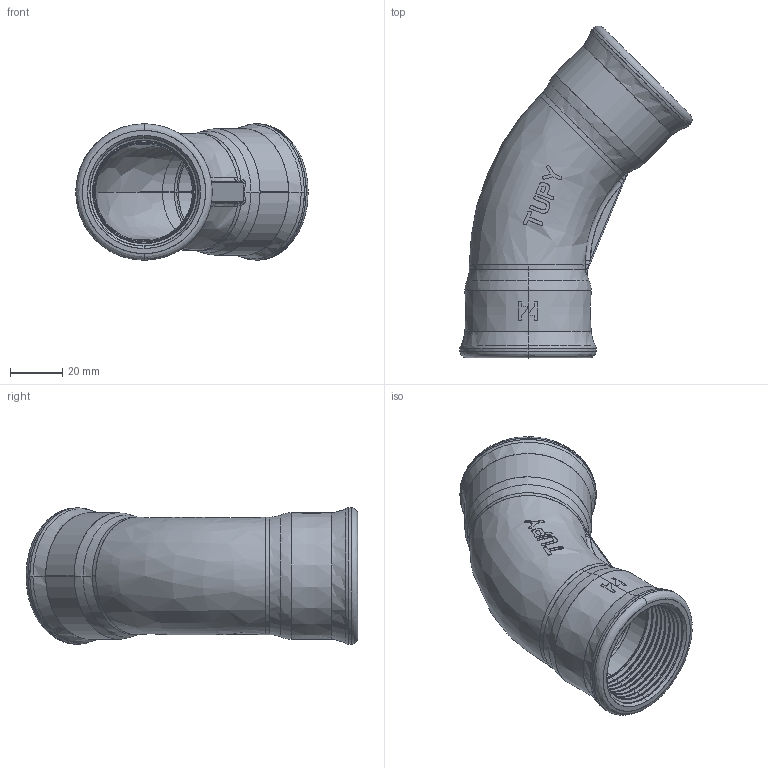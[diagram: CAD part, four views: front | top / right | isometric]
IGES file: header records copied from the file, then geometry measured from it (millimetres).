
Start section: SolidWorks IGES file using analytic representation for surfaces
Global section: file name: C:\Users\Joel Rosa\Desktop\Tubulação\12-26-OK\12-26-008.IGS; native system: SolidWorks 2011; preprocessor: SolidWorks 2011; author: Joel Rosa; date: 130205.213216; units: millimetre
Bounding box: 88.59 x 126.59 x 52 mm (x, y, z)
Surface area: 38310.5 mm2 (no closed solid volume)
Topology: 0 solids, 0 shells, 359 faces, 2955 edges, 2955 vertices
Faces by surface type: bspline 259, revolution 100
